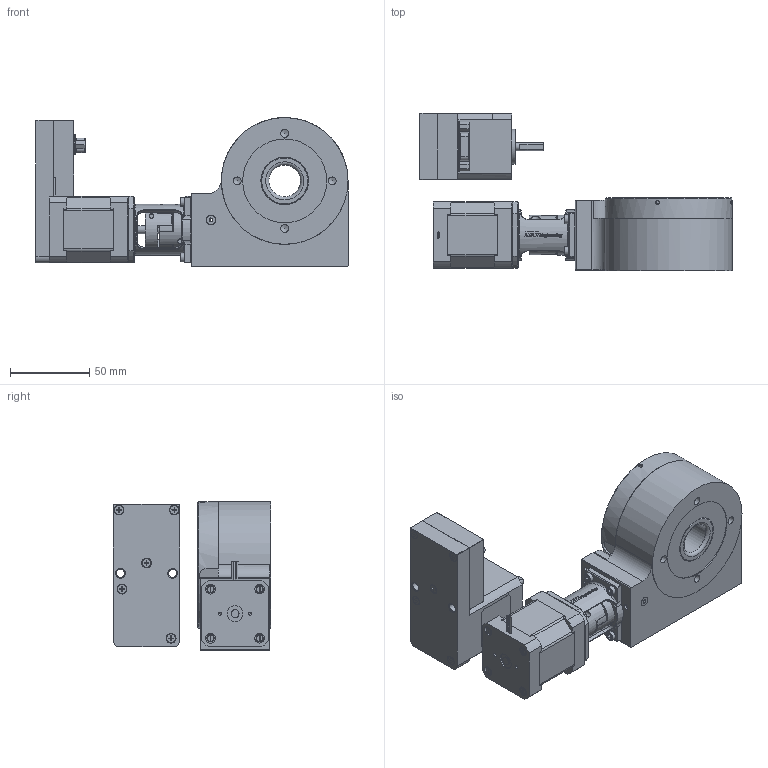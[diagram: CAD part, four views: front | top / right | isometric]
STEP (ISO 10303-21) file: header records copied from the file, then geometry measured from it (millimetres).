
FILE_DESCRIPTION (( 'STEP AP214' ), '1' );
FILE_NAME ('MDT36012.STEP', '2024-11-12T06:44:36', ( '' ), ( '' ), 'SwSTEP 2.0', 'SolidWorks 2022', '' );
FILE_SCHEMA (( 'AUTOMOTIVE_DESIGN' ));
Length unit declared in the file: millimetre
Products named in the file (5): MDT36012-000-01-V07-Gehäuse-komplett-N17; MDT36012-999-Drehscheibe-mit-Hohlwelle; GSM17^MDT36012_n_Standard; MDT36012; NSM17^MDT36012
Assembly tree (4 placements, depth 2):
  MDT36012
    MDT36012-000-01-V07-Gehäuse-komplett-N17
    MDT36012-999-Drehscheibe-mit-Hohlwelle
    NSM17^MDT36012
    GSM17^MDT36012_n_Standard
Bounding box: 197 x 99.35 x 94 mm (x, y, z)
Volume: 305220.2 mm3; surface area: 174505.3 mm2
Topology: 47 solids, 79 shells, 2094 faces, 5189 edges, 3361 vertices
Faces by surface type: plane 941, cylinder 526, bspline 413, cone 175, torus 27, sphere 12
Full cylindrical faces by diameter (mm): 0.6 x15, 1 x8, 2 x10, 2.013 x2, 2.05 x3, 2.459 x8, 2.5 x23, 2.7 x7, 2.8 x2, 2.98 x2, 2.998 x8, 3 x38, 3.2 x15, 3.3 x5, 3.4 x4, 4 x3, 4.2 x1, 4.3 x1, 4.5 x4, 5 x22, 5.2 x2, 5.5 x10, 5.6 x5, 5.8 x2, 5.99 x2, 6 x16, 6.02 x2, 6.2 x2, 6.4 x3, 7 x1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
Entity records: 101139 total; most frequent: CARTESIAN_POINT 34493, ORIENTED_EDGE 8864, DIRECTION 7383, EDGE_CURVE 4452, VERTEX_POINT 3166, EDGE_LOOP 2867, AXIS2_PLACEMENT_3D 2729, FACE_OUTER_BOUND 2411
